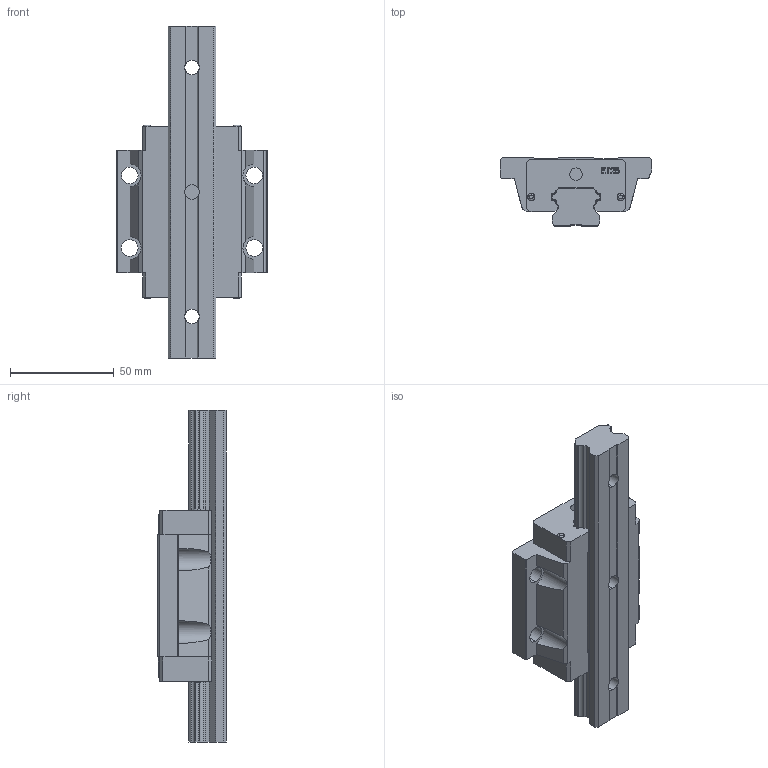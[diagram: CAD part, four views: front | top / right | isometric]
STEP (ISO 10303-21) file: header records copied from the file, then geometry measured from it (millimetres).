
FILE_DESCRIPTION (( 'STEP AP214' ), '1' );
FILE_NAME ('7.1068 Lineaarikelkka ETW25CA.STEP', '2026-03-12T13:21:10', ( '' ), ( '' ), 'SwSTEP 2.0', 'SolidWorks 2025', '' );
FILE_SCHEMA (( 'AUTOMOTIVE_DESIGN' ));
Length unit declared in the file: millimetre
Products named in the file (3): 7.1068 Lineaarikelkka ETW25CA; ET25_RAIL; ETW25CA_BLOCK
Assembly tree (2 placements, depth 2):
  7.1068 Lineaarikelkka ETW25CA
    ET25_RAIL
    ETW25CA_BLOCK
Bounding box: 73 x 33 x 160 mm (x, y, z)
Volume: 146143.9 mm3; surface area: 36791.6 mm2
Topology: 2 solids, 6 shells, 302 faces, 830 edges, 556 vertices
Faces by surface type: plane 200, cylinder 70, bspline 24, torus 8
Entity records: 15135 total; most frequent: CARTESIAN_POINT 4070, ORIENTED_EDGE 1660, DIRECTION 1480, EDGE_CURVE 830, VECTOR 586, LINE 586, VERTEX_POINT 556, AXIS2_PLACEMENT_3D 447
